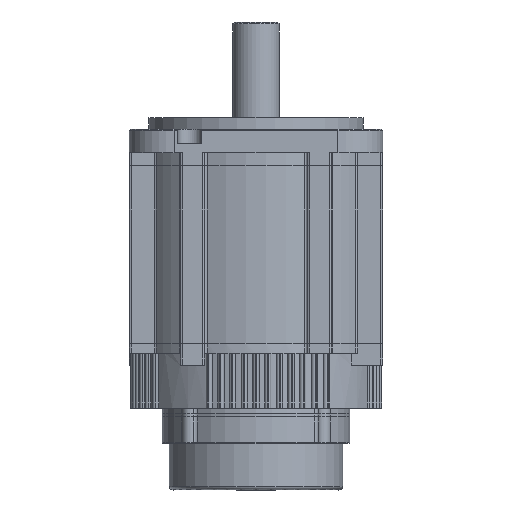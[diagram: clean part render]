
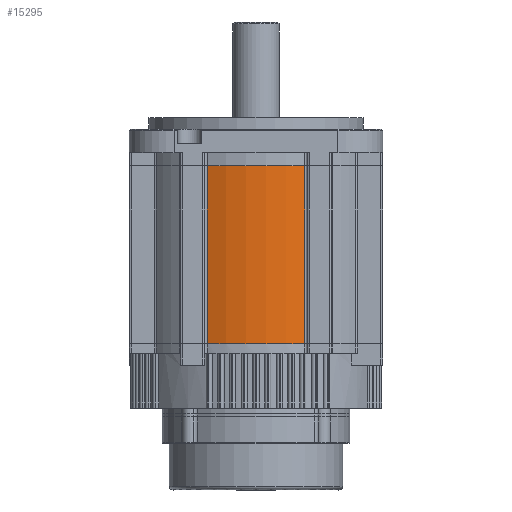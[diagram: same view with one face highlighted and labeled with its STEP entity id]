
A CAD part, front view. The second image highlights one B-rep face of the part: STEP entity #15295.
In plain terms, the highlighted cylindrical face has radius 64.5 mm (diameter 129 mm), a partial arc.
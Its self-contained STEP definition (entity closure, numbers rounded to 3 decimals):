
#690=CYLINDRICAL_SURFACE('',#17053,64.5);
#1465=FACE_OUTER_BOUND('',#2265,.T.);
#2265=EDGE_LOOP('',(#13234,#13235,#13236,#13237));
#3266=CIRCLE('',#17047,64.5);
#3269=CIRCLE('',#17054,64.5);
#4315=LINE('',#29997,#5399);
#4316=LINE('',#30001,#5400);
#5399=VECTOR('',#21428,91.2);
#5400=VECTOR('',#21433,91.2);
#6972=VERTEX_POINT('',#29976);
#6973=VERTEX_POINT('',#29978);
#6979=VERTEX_POINT('',#29996);
#6980=VERTEX_POINT('',#30000);
#9198=EDGE_CURVE('',#6972,#6973,#3266,.T.);
#9207=EDGE_CURVE('',#6973,#6979,#4315,.T.);
#9209=EDGE_CURVE('',#6980,#6972,#4316,.F.);
#9210=EDGE_CURVE('',#6979,#6980,#3269,.F.);
#13234=ORIENTED_EDGE('',*,*,#9207,.F.);
#13235=ORIENTED_EDGE('',*,*,#9198,.F.);
#13236=ORIENTED_EDGE('',*,*,#9209,.F.);
#13237=ORIENTED_EDGE('',*,*,#9210,.F.);
#15295=ADVANCED_FACE('',(#1465),#690,.F.);
#17047=AXIS2_PLACEMENT_3D('',#29979,#21411,#21412);
#17053=AXIS2_PLACEMENT_3D('',#29999,#21431,#21432);
#17054=AXIS2_PLACEMENT_3D('',#30002,#21434,#21435);
#21411=DIRECTION('center_axis',(0.,0.,1.));
#21412=DIRECTION('ref_axis',(1.,0.,0.));
#21428=DIRECTION('',(0.,0.,1.));
#21431=DIRECTION('center_axis',(0.,0.,1.));
#21432=DIRECTION('ref_axis',(1.,0.,0.));
#21433=DIRECTION('',(0.,0.,1.));
#21434=DIRECTION('center_axis',(0.,0.,1.));
#21435=DIRECTION('ref_axis',(1.,0.,0.));
#29976=CARTESIAN_POINT('',(-20.414,-2.999,-36.64));
#29978=CARTESIAN_POINT('',(29.413,-2.999,-36.64));
#29979=CARTESIAN_POINT('Origin',(4.5,56.495,-36.64));
#29996=CARTESIAN_POINT('',(29.413,-2.999,54.56));
#29997=CARTESIAN_POINT('',(29.413,-2.999,-36.64));
#29999=CARTESIAN_POINT('Origin',(4.5,56.495,-58.641));
#30000=CARTESIAN_POINT('',(-20.414,-2.999,54.56));
#30001=CARTESIAN_POINT('',(-20.414,-2.999,-36.64));
#30002=CARTESIAN_POINT('Origin',(4.5,56.495,54.56));
